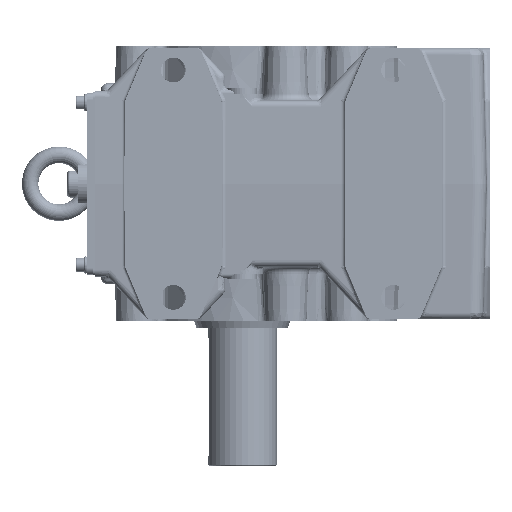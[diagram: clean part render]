
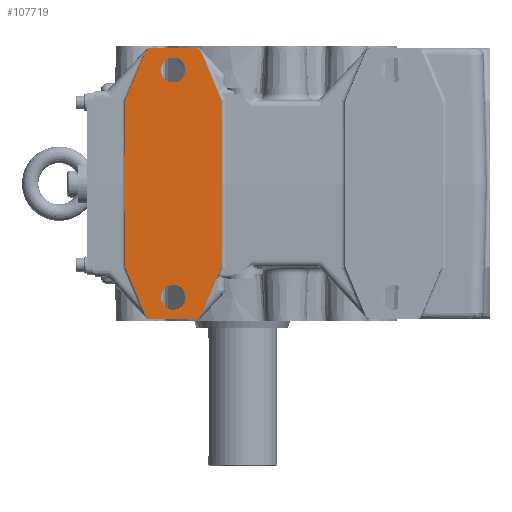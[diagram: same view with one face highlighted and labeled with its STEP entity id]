
A CAD part, left-side view. The second image highlights one B-rep face of the part: STEP entity #107719.
In plain terms, the highlighted planar face has unit normal (-1, 0, 0).
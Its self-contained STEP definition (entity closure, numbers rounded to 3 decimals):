
#86814=CARTESIAN_POINT('',(-112.,84.614,61.429));
#86815=VERTEX_POINT('',#86814);
#86816=CARTESIAN_POINT('',(-112.,82.368,66.75));
#86817=VERTEX_POINT('',#86816);
#86818=CARTESIAN_POINT('',(-112.,84.212,67.526));
#86819=DIRECTION('',(-1.0,0.0,0.0));
#86820=DIRECTION('',(0.0,0.388,-0.922));
#86821=AXIS2_PLACEMENT_3D('',#86818,#86819,#86820);
#86822=ELLIPSE('',#86821,82.895,2.0);
#86823=EDGE_CURVE('',#86815,#86817,#86822,.T.);
#86871=CARTESIAN_POINT('',(-112.,85.011,59.485));
#86872=VERTEX_POINT('',#86871);
#86873=CARTESIAN_POINT('',(-112.,85.011,59.485));
#86874=CARTESIAN_POINT('',(-112.,85.01,59.818));
#86875=CARTESIAN_POINT('',(-112.,84.976,60.151));
#86876=CARTESIAN_POINT('',(-112.,84.909,60.478));
#86877=CARTESIAN_POINT('',(-112.,84.842,60.804));
#86878=CARTESIAN_POINT('',(-112.,84.744,61.123));
#86879=CARTESIAN_POINT('',(-112.,84.614,61.429));
#86880=B_SPLINE_CURVE_WITH_KNOTS('',3,(#86873,#86874,#86875,#86876,#86877,#86878,#86879),.UNSPECIFIED.,.F.,.U.,(4,3,4),(-0.2,-0.1,0.0),.UNSPECIFIED.);
#86881=EDGE_CURVE('',#86872,#86815,#86880,.T.);
#86908=CARTESIAN_POINT('',(-112.,86.064,0.));
#86909=VERTEX_POINT('',#86908);
#86910=CARTESIAN_POINT('',(-112.,87.0,67.526));
#86911=DIRECTION('',(-1.0,0.0,0.0));
#86912=DIRECTION('',(0.0,0.0,-1.0));
#86913=AXIS2_PLACEMENT_3D('',#86910,#86911,#86912);
#86914=ELLIPSE('',#86913,76.403,2.0);
#86915=EDGE_CURVE('',#86909,#86872,#86914,.T.);
#86941=CARTESIAN_POINT('',(-112.,85.011,-59.485));
#86942=VERTEX_POINT('',#86941);
#86943=CARTESIAN_POINT('',(-112.,87.0,-67.526));
#86944=DIRECTION('',(-1.0,0.0,0.0));
#86945=DIRECTION('',(0.0,0.0,1.0));
#86946=AXIS2_PLACEMENT_3D('',#86943,#86944,#86945);
#86947=ELLIPSE('',#86946,76.403,2.0);
#86948=EDGE_CURVE('',#86942,#86909,#86947,.T.);
#93979=CARTESIAN_POINT('',(-112.,15.392,61.431));
#93980=VERTEX_POINT('',#93979);
#93981=CARTESIAN_POINT('',(-112.,15.0,59.49));
#93982=VERTEX_POINT('',#93981);
#93983=CARTESIAN_POINT('',(-112.,20.0,59.49));
#93984=DIRECTION('',(1.0,0.0,0.0));
#93985=DIRECTION('',(0.0,-0.98,0.198));
#93986=AXIS2_PLACEMENT_3D('',#93983,#93984,#93985);
#93987=CIRCLE('',#93986,5.);
#93988=EDGE_CURVE('',#93980,#93982,#93987,.T.);
#94011=CARTESIAN_POINT('',(-112.,29.712,95.44));
#94012=VERTEX_POINT('',#94011);
#94013=CARTESIAN_POINT('',(-112.,29.712,95.44));
#94014=DIRECTION('',(0.0,-0.388,-0.922));
#94015=VECTOR('',#94014,36.901);
#94016=LINE('',#94013,#94015);
#94017=EDGE_CURVE('',#94012,#93980,#94016,.T.);
#94039=CARTESIAN_POINT('',(-112.,34.32,98.5));
#94040=VERTEX_POINT('',#94039);
#94041=CARTESIAN_POINT('',(-112.,34.32,93.5));
#94042=DIRECTION('',(1.0,0.0,0.0));
#94043=DIRECTION('',(0.0,0.0,1.0));
#94044=AXIS2_PLACEMENT_3D('',#94041,#94042,#94043);
#94045=CIRCLE('',#94044,5.0);
#94046=EDGE_CURVE('',#94040,#94012,#94045,.T.);
#94064=CARTESIAN_POINT('',(-112.,65.68,98.5));
#94065=VERTEX_POINT('',#94064);
#94066=CARTESIAN_POINT('',(-112.,65.68,98.5));
#94067=DIRECTION('',(0.0,-1.0,0.0));
#94068=VECTOR('',#94067,31.36);
#94069=LINE('',#94066,#94068);
#94070=EDGE_CURVE('',#94065,#94040,#94069,.T.);
#94092=CARTESIAN_POINT('',(-112.,70.288,95.44));
#94093=VERTEX_POINT('',#94092);
#94094=CARTESIAN_POINT('',(-112.,65.68,93.5));
#94095=DIRECTION('',(1.0,0.0,0.0));
#94096=DIRECTION('',(0.0,0.0,1.0));
#94097=AXIS2_PLACEMENT_3D('',#94094,#94095,#94096);
#94098=CIRCLE('',#94097,5.0);
#94099=EDGE_CURVE('',#94093,#94065,#94098,.T.);
#94117=CARTESIAN_POINT('',(-112.0,82.368,66.75));
#94118=DIRECTION('',(0.0,-0.388,0.922));
#94119=VECTOR('',#94118,31.13);
#94120=LINE('',#94117,#94119);
#94121=EDGE_CURVE('',#86817,#94093,#94120,.T.);
#107135=CARTESIAN_POINT('',(-112.,84.614,-61.429));
#107136=VERTEX_POINT('',#107135);
#107137=CARTESIAN_POINT('',(-112.,84.614,-61.429));
#107138=CARTESIAN_POINT('',(-112.,84.744,-61.122));
#107139=CARTESIAN_POINT('',(-112.,84.843,-60.803));
#107140=CARTESIAN_POINT('',(-112.,84.909,-60.477));
#107141=CARTESIAN_POINT('',(-112.,84.976,-60.15));
#107142=CARTESIAN_POINT('',(-112.,85.01,-59.818));
#107143=CARTESIAN_POINT('',(-112.,85.011,-59.485));
#107144=B_SPLINE_CURVE_WITH_KNOTS('',3,(#107137,#107138,#107139,#107140,#107141,#107142,#107143),.UNSPECIFIED.,.F.,.U.,(4,3,4),(-0.2,-0.1,0.0),.UNSPECIFIED.);
#107145=EDGE_CURVE('',#107136,#86942,#107144,.T.);
#107172=CARTESIAN_POINT('',(-112.,82.368,-66.75));
#107173=VERTEX_POINT('',#107172);
#107174=CARTESIAN_POINT('',(-112.,84.212,-67.526));
#107175=DIRECTION('',(-1.0,0.0,0.0));
#107176=DIRECTION('',(0.0,0.388,0.922));
#107177=AXIS2_PLACEMENT_3D('',#107174,#107175,#107176);
#107178=ELLIPSE('',#107177,82.895,2.0);
#107179=EDGE_CURVE('',#107173,#107136,#107178,.T.);
#107203=CARTESIAN_POINT('',(-112.,70.288,-95.44));
#107204=VERTEX_POINT('',#107203);
#107205=CARTESIAN_POINT('',(-112.0,70.288,-95.44));
#107206=DIRECTION('',(0.0,0.388,0.922));
#107207=VECTOR('',#107206,31.13);
#107208=LINE('',#107205,#107207);
#107209=EDGE_CURVE('',#107204,#107173,#107208,.T.);
#107227=CARTESIAN_POINT('',(-112.,65.68,-98.5));
#107228=VERTEX_POINT('',#107227);
#107229=CARTESIAN_POINT('',(-112.,65.68,-93.5));
#107230=DIRECTION('',(1.0,0.0,0.0));
#107231=DIRECTION('',(0.0,0.0,-1.0));
#107232=AXIS2_PLACEMENT_3D('',#107229,#107230,#107231);
#107233=CIRCLE('',#107232,5.0);
#107234=EDGE_CURVE('',#107228,#107204,#107233,.T.);
#107252=CARTESIAN_POINT('',(-112.,34.32,-98.5));
#107253=VERTEX_POINT('',#107252);
#107254=CARTESIAN_POINT('',(-112.,34.32,-98.5));
#107255=DIRECTION('',(0.0,1.0,0.0));
#107256=VECTOR('',#107255,31.36);
#107257=LINE('',#107254,#107256);
#107258=EDGE_CURVE('',#107253,#107228,#107257,.T.);
#107280=CARTESIAN_POINT('',(-112.,29.712,-95.44));
#107281=VERTEX_POINT('',#107280);
#107282=CARTESIAN_POINT('',(-112.,34.32,-93.5));
#107283=DIRECTION('',(1.0,0.0,0.0));
#107284=DIRECTION('',(0.0,0.0,-1.0));
#107285=AXIS2_PLACEMENT_3D('',#107282,#107283,#107284);
#107286=CIRCLE('',#107285,5.0);
#107287=EDGE_CURVE('',#107281,#107253,#107286,.T.);
#107305=CARTESIAN_POINT('',(-112.,15.392,-61.431));
#107306=VERTEX_POINT('',#107305);
#107307=CARTESIAN_POINT('',(-112.,15.392,-61.431));
#107308=DIRECTION('',(0.0,0.388,-0.922));
#107309=VECTOR('',#107308,36.901);
#107310=LINE('',#107307,#107309);
#107311=EDGE_CURVE('',#107306,#107281,#107310,.T.);
#107332=CARTESIAN_POINT('',(-112.,15.0,-59.49));
#107333=VERTEX_POINT('',#107332);
#107334=CARTESIAN_POINT('',(-112.,20.0,-59.49));
#107335=DIRECTION('',(1.0,0.0,0.0));
#107336=DIRECTION('',(0.0,-0.98,-0.198));
#107337=AXIS2_PLACEMENT_3D('',#107334,#107335,#107336);
#107338=CIRCLE('',#107337,5.0);
#107339=EDGE_CURVE('',#107333,#107306,#107338,.T.);
#107357=CARTESIAN_POINT('',(-112.,15.0,59.49));
#107358=DIRECTION('',(0.0,0.0,-1.0));
#107359=VECTOR('',#107358,118.981);
#107360=LINE('',#107357,#107359);
#107361=EDGE_CURVE('',#93982,#107333,#107360,.T.);
#107671=CARTESIAN_POINT('',(-112.,-29.479,11.268));
#107672=DIRECTION('',(1.0,0.0,0.0));
#107673=DIRECTION('',(0.0,0.0,-1.0));
#107674=AXIS2_PLACEMENT_3D('',#107671,#107672,#107673);
#107675=PLANE('',#107674);
#107676=ORIENTED_EDGE('',*,*,#86948,.F.);
#107677=ORIENTED_EDGE('',*,*,#107145,.F.);
#107678=ORIENTED_EDGE('',*,*,#107179,.F.);
#107679=ORIENTED_EDGE('',*,*,#107209,.F.);
#107680=ORIENTED_EDGE('',*,*,#107234,.F.);
#107681=ORIENTED_EDGE('',*,*,#107258,.F.);
#107682=ORIENTED_EDGE('',*,*,#107287,.F.);
#107683=ORIENTED_EDGE('',*,*,#107311,.F.);
#107684=ORIENTED_EDGE('',*,*,#107339,.F.);
#107685=ORIENTED_EDGE('',*,*,#107361,.F.);
#107686=ORIENTED_EDGE('',*,*,#93988,.F.);
#107687=ORIENTED_EDGE('',*,*,#94017,.F.);
#107688=ORIENTED_EDGE('',*,*,#94046,.F.);
#107689=ORIENTED_EDGE('',*,*,#94070,.F.);
#107690=ORIENTED_EDGE('',*,*,#94099,.F.);
#107691=ORIENTED_EDGE('',*,*,#94121,.F.);
#107692=ORIENTED_EDGE('',*,*,#86823,.F.);
#107693=ORIENTED_EDGE('',*,*,#86881,.F.);
#107694=ORIENTED_EDGE('',*,*,#86915,.F.);
#107695=EDGE_LOOP('',(#107676,#107677,#107678,#107679,#107680,#107681,#107682,#107683,#107684,#107685,#107686,#107687,#107688,#107689,#107690,#107691,#107692,#107693,#107694));
#107696=FACE_OUTER_BOUND('',#107695,.T.);
#107697=CARTESIAN_POINT('',(-112.,50.0,-73.5));
#107698=VERTEX_POINT('',#107697);
#107699=CARTESIAN_POINT('',(-112.,50.0,-82.5));
#107700=DIRECTION('',(1.0,0.0,0.0));
#107701=DIRECTION('',(0.0,0.0,1.0));
#107702=AXIS2_PLACEMENT_3D('',#107699,#107700,#107701);
#107703=CIRCLE('',#107702,9.0);
#107704=EDGE_CURVE('',#107698,#107698,#107703,.T.);
#107705=ORIENTED_EDGE('',*,*,#107704,.T.);
#107706=EDGE_LOOP('',(#107705));
#107707=FACE_BOUND('',#107706,.T.);
#107708=CARTESIAN_POINT('',(-112.,50.,91.5));
#107709=VERTEX_POINT('',#107708);
#107710=CARTESIAN_POINT('',(-112.,50.,82.5));
#107711=DIRECTION('',(1.0,0.0,0.0));
#107712=DIRECTION('',(0.0,0.0,1.0));
#107713=AXIS2_PLACEMENT_3D('',#107710,#107711,#107712);
#107714=CIRCLE('',#107713,9.0);
#107715=EDGE_CURVE('',#107709,#107709,#107714,.T.);
#107716=ORIENTED_EDGE('',*,*,#107715,.T.);
#107717=EDGE_LOOP('',(#107716));
#107718=FACE_BOUND('',#107717,.T.);
#107719=ADVANCED_FACE('',(#107696,#107707,#107718),#107675,.F.);
